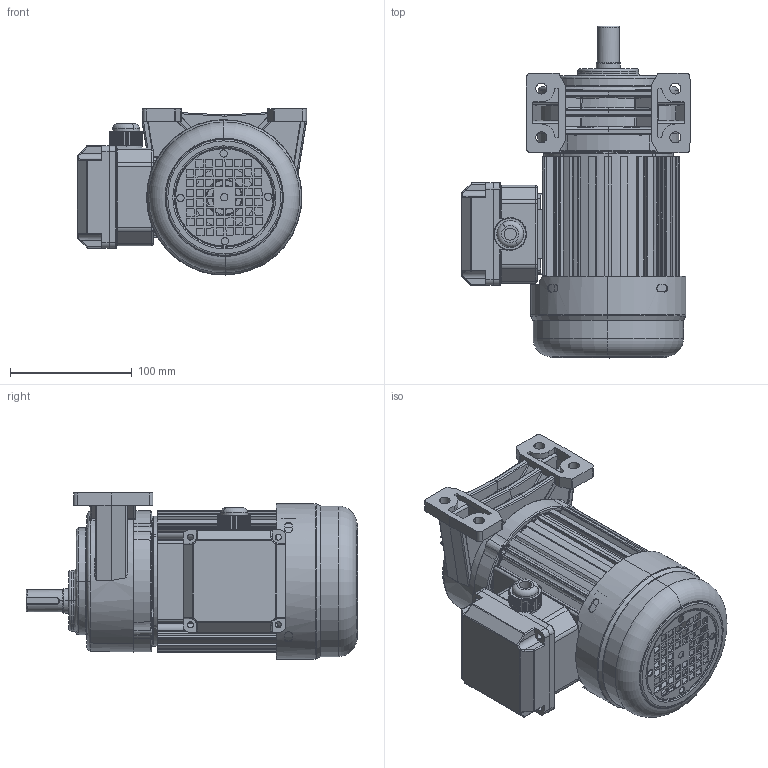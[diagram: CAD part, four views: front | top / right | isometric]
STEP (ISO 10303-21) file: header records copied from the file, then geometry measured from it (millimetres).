
FILE_DESCRIPTION (( 'STEP AP203' ), '1' );
FILE_NAME ('100W饜1#湍价陬拏宒.STEP', '2020-04-17T02:03:49', ( '' ), ( '' ), 'SwSTEP 2.0', 'SolidWorks 2019', '' );
FILE_SCHEMA (( 'CONFIG_CONTROL_DESIGN' ));
Length unit declared in the file: millimetre
Products named in the file (7): 100W饜1#湍价陬拏宒; 100W棠憤迖殤; 100W饜1#拏宒; 100W价陬瑞欶; 諉芛; 蜊輛綴諉盄碟釱3; 湍价陬諉盄碟裔
Assembly tree (6 placements, depth 2):
  100W饜1#湍价陬拏宒
    100W饜1#拏宒
    100W棠憤迖殤
    100W价陬瑞欶
    蜊輛綴諉盄碟釱3
    諉芛
    湍价陬諉盄碟裔
Bounding box: 188 x 272.36 x 136.24 mm (x, y, z)
Volume: 1445212.3 mm3; surface area: 450755 mm2
Topology: 9 solids, 9 shells, 2699 faces, 6962 edges, 4240 vertices
Faces by surface type: cylinder 840, plane 831, bspline 528, torus 234, sphere 139, cone 127
Entity records: 110812 total; most frequent: CARTESIAN_POINT 48854, ORIENTED_EDGE 13602, DIRECTION 11849, EDGE_CURVE 6801, AXIS2_PLACEMENT_3D 4544, VERTEX_POINT 4225, EDGE_LOOP 2966, LINE 2761
